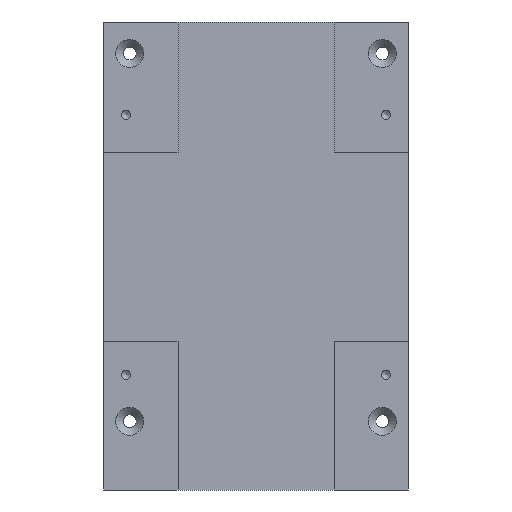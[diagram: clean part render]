
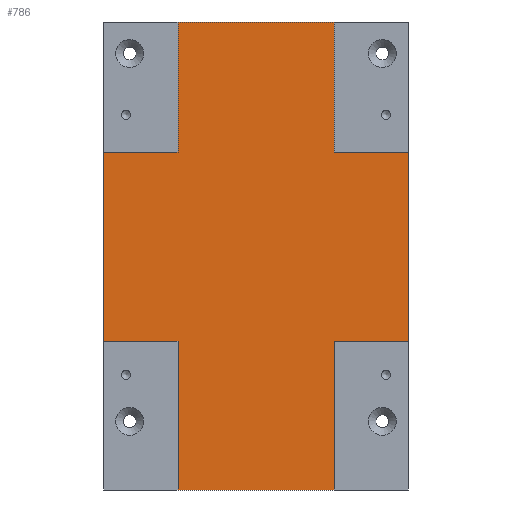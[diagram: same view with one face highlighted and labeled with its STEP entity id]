
A CAD part, front view. The second image highlights one B-rep face of the part: STEP entity #786.
In plain terms, the highlighted planar face has unit normal (0, -1, 0).
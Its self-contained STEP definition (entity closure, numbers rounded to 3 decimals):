
#84=FACE_OUTER_BOUND('',#134,.T.);
#134=EDGE_LOOP('',(#587,#588,#589,#590,#591,#592,#593,#594,#595,#596,#597,
#598));
#192=LINE('',#1115,#276);
#198=LINE('',#1127,#282);
#202=LINE('',#1136,#286);
#204=LINE('',#1142,#288);
#214=LINE('',#1169,#298);
#215=LINE('',#1172,#299);
#217=LINE('',#1175,#301);
#227=LINE('',#1195,#311);
#228=LINE('',#1196,#312);
#229=LINE('',#1197,#313);
#230=LINE('',#1199,#314);
#231=LINE('',#1200,#315);
#276=VECTOR('',#896,35.);
#282=VECTOR('',#904,40.);
#286=VECTOR('',#910,35.);
#288=VECTOR('',#914,40.);
#298=VECTOR('',#938,20.);
#299=VECTOR('',#941,20.);
#301=VECTOR('',#945,42.);
#311=VECTOR('',#957,20.);
#312=VECTOR('',#958,51.);
#313=VECTOR('',#959,42.);
#314=VECTOR('',#960,51.);
#315=VECTOR('',#961,20.);
#359=VERTEX_POINT('',#1111);
#361=VERTEX_POINT('',#1114);
#364=VERTEX_POINT('',#1121);
#366=VERTEX_POINT('',#1125);
#368=VERTEX_POINT('',#1130);
#370=VERTEX_POINT('',#1134);
#371=VERTEX_POINT('',#1138);
#373=VERTEX_POINT('',#1141);
#383=VERTEX_POINT('',#1167);
#384=VERTEX_POINT('',#1171);
#393=VERTEX_POINT('',#1194);
#394=VERTEX_POINT('',#1198);
#436=EDGE_CURVE('',#359,#361,#192,.T.);
#442=EDGE_CURVE('',#366,#364,#198,.T.);
#446=EDGE_CURVE('',#370,#368,#202,.T.);
#448=EDGE_CURVE('',#371,#373,#204,.T.);
#462=EDGE_CURVE('',#383,#371,#214,.T.);
#463=EDGE_CURVE('',#364,#384,#215,.T.);
#465=EDGE_CURVE('',#361,#370,#217,.T.);
#475=EDGE_CURVE('',#393,#359,#227,.T.);
#476=EDGE_CURVE('',#384,#393,#228,.T.);
#477=EDGE_CURVE('',#373,#366,#229,.T.);
#478=EDGE_CURVE('',#394,#383,#230,.T.);
#479=EDGE_CURVE('',#368,#394,#231,.T.);
#587=ORIENTED_EDGE('',*,*,#475,.F.);
#588=ORIENTED_EDGE('',*,*,#476,.F.);
#589=ORIENTED_EDGE('',*,*,#463,.F.);
#590=ORIENTED_EDGE('',*,*,#442,.F.);
#591=ORIENTED_EDGE('',*,*,#477,.F.);
#592=ORIENTED_EDGE('',*,*,#448,.F.);
#593=ORIENTED_EDGE('',*,*,#462,.F.);
#594=ORIENTED_EDGE('',*,*,#478,.F.);
#595=ORIENTED_EDGE('',*,*,#479,.F.);
#596=ORIENTED_EDGE('',*,*,#446,.F.);
#597=ORIENTED_EDGE('',*,*,#465,.F.);
#598=ORIENTED_EDGE('',*,*,#436,.F.);
#756=PLANE('',#838);
#786=ADVANCED_FACE('',(#84),#756,.F.);
#838=AXIS2_PLACEMENT_3D('',#1193,#955,#956);
#896=DIRECTION('',(0.,0.,1.));
#904=DIRECTION('',(0.,0.,1.));
#910=DIRECTION('',(0.,0.,-1.));
#914=DIRECTION('',(0.,0.,-1.));
#938=DIRECTION('',(-1.,0.,0.));
#941=DIRECTION('',(-1.,0.,0.));
#945=DIRECTION('',(1.,0.,0.));
#955=DIRECTION('center_axis',(0.,1.,0.));
#956=DIRECTION('ref_axis',(0.,0.,1.));
#957=DIRECTION('',(1.,0.,0.));
#958=DIRECTION('',(0.,0.,1.));
#959=DIRECTION('',(-1.,0.,0.));
#960=DIRECTION('',(0.,0.,-1.));
#961=DIRECTION('',(1.,0.,0.));
#1111=CARTESIAN_POINT('',(-21.,0.5,28.));
#1114=CARTESIAN_POINT('',(-21.,0.5,63.));
#1115=CARTESIAN_POINT('',(-21.,0.5,63.));
#1121=CARTESIAN_POINT('',(-21.,0.5,-23.));
#1125=CARTESIAN_POINT('',(-21.,0.5,-63.));
#1127=CARTESIAN_POINT('',(-21.,0.5,63.));
#1130=CARTESIAN_POINT('',(21.,0.5,28.));
#1134=CARTESIAN_POINT('',(21.,0.5,63.));
#1136=CARTESIAN_POINT('',(21.,0.5,-63.));
#1138=CARTESIAN_POINT('',(21.,0.5,-23.));
#1141=CARTESIAN_POINT('',(21.,0.5,-63.));
#1142=CARTESIAN_POINT('',(21.,0.5,-63.));
#1167=CARTESIAN_POINT('',(41.,0.5,-23.));
#1169=CARTESIAN_POINT('',(-41.,0.5,-23.));
#1171=CARTESIAN_POINT('',(-41.,0.5,-23.));
#1172=CARTESIAN_POINT('',(-41.,0.5,-23.));
#1175=CARTESIAN_POINT('',(-15.25,0.5,63.));
#1193=CARTESIAN_POINT('Origin',(0.,0.5,
2.5));
#1194=CARTESIAN_POINT('',(-41.,0.5,28.));
#1195=CARTESIAN_POINT('',(41.,0.5,28.));
#1196=CARTESIAN_POINT('',(-41.,0.5,-30.25));
#1197=CARTESIAN_POINT('',(25.75,0.5,-63.));
#1198=CARTESIAN_POINT('',(41.,0.5,28.));
#1199=CARTESIAN_POINT('',(41.,0.5,32.75));
#1200=CARTESIAN_POINT('',(41.,0.5,28.));
